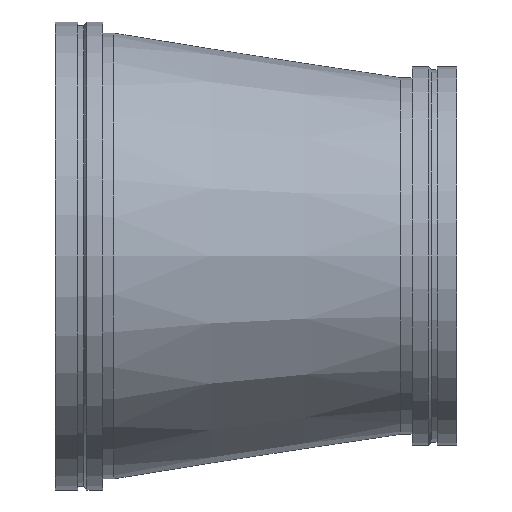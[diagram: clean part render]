
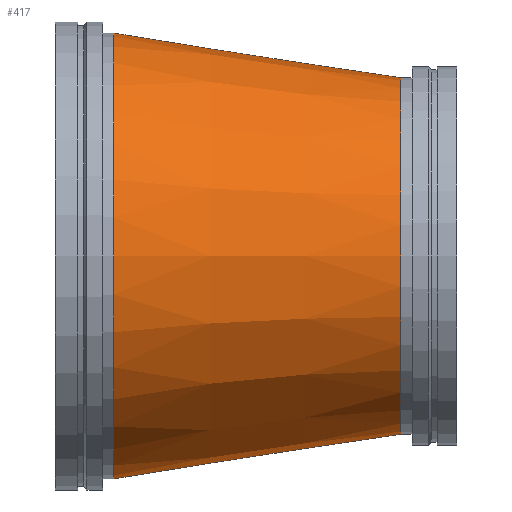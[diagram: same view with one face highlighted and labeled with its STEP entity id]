
A CAD part, front view. The second image highlights one B-rep face of the part: STEP entity #417.
In plain terms, the highlighted conical face has half-angle 8.83 degrees and reference radius 457.2 mm.
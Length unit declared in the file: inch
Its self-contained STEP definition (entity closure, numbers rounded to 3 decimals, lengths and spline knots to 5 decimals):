
#46=CONICAL_SURFACE('',#475,18.,0.154);
#54=LINE('',#739,#68);
#68=VECTOR('',#587,18.);
#101=FACE_OUTER_BOUND('',#124,.T.);
#124=EDGE_LOOP('',(#315,#316,#317,#318,#319,#320));
#155=CIRCLE('',#473,20.);
#156=CIRCLE('',#474,20.);
#157=CIRCLE('',#476,16.);
#158=CIRCLE('',#477,16.);
#195=VERTEX_POINT('',#729);
#196=VERTEX_POINT('',#730);
#197=VERTEX_POINT('',#735);
#198=VERTEX_POINT('',#736);
#239=EDGE_CURVE('',#195,#196,#155,.T.);
#240=EDGE_CURVE('',#196,#195,#156,.T.);
#242=EDGE_CURVE('',#197,#198,#157,.T.);
#243=EDGE_CURVE('',#198,#197,#158,.T.);
#244=EDGE_CURVE('',#198,#196,#54,.T.);
#315=ORIENTED_EDGE('',*,*,#242,.F.);
#316=ORIENTED_EDGE('',*,*,#243,.F.);
#317=ORIENTED_EDGE('',*,*,#244,.T.);
#318=ORIENTED_EDGE('',*,*,#240,.T.);
#319=ORIENTED_EDGE('',*,*,#239,.T.);
#320=ORIENTED_EDGE('',*,*,#244,.F.);
#417=ADVANCED_FACE('',(#101),#46,.T.);
#473=AXIS2_PLACEMENT_3D('',#731,#576,#577);
#474=AXIS2_PLACEMENT_3D('',#732,#578,#579);
#475=AXIS2_PLACEMENT_3D('',#734,#581,#582);
#476=AXIS2_PLACEMENT_3D('',#737,#583,#584);
#477=AXIS2_PLACEMENT_3D('',#738,#585,#586);
#576=DIRECTION('center_axis',(1.,0.,0.));
#577=DIRECTION('ref_axis',(0.,0.,-1.));
#578=DIRECTION('center_axis',(1.,0.,0.));
#579=DIRECTION('ref_axis',(0.,0.,-1.));
#581=DIRECTION('center_axis',(-1.,0.,0.));
#582=DIRECTION('ref_axis',(0.,1.,0.));
#583=DIRECTION('center_axis',(1.,0.,0.));
#584=DIRECTION('ref_axis',(0.,0.,-1.));
#585=DIRECTION('center_axis',(1.,0.,0.));
#586=DIRECTION('ref_axis',(0.,0.,-1.));
#587=DIRECTION('',(-0.988,-0.153,0.));
#729=CARTESIAN_POINT('',(5.25,20.,0.));
#730=CARTESIAN_POINT('',(5.25,-20.,0.));
#731=CARTESIAN_POINT('Origin',(5.25,0.,0.));
#732=CARTESIAN_POINT('Origin',(5.25,0.,0.));
#734=CARTESIAN_POINT('Origin',(18.125,0.,0.));
#735=CARTESIAN_POINT('',(31.,16.,0.));
#736=CARTESIAN_POINT('',(31.,-16.,0.));
#737=CARTESIAN_POINT('Origin',(31.,0.,0.));
#738=CARTESIAN_POINT('Origin',(31.,0.,0.));
#739=CARTESIAN_POINT('',(18.125,-18.,0.));
